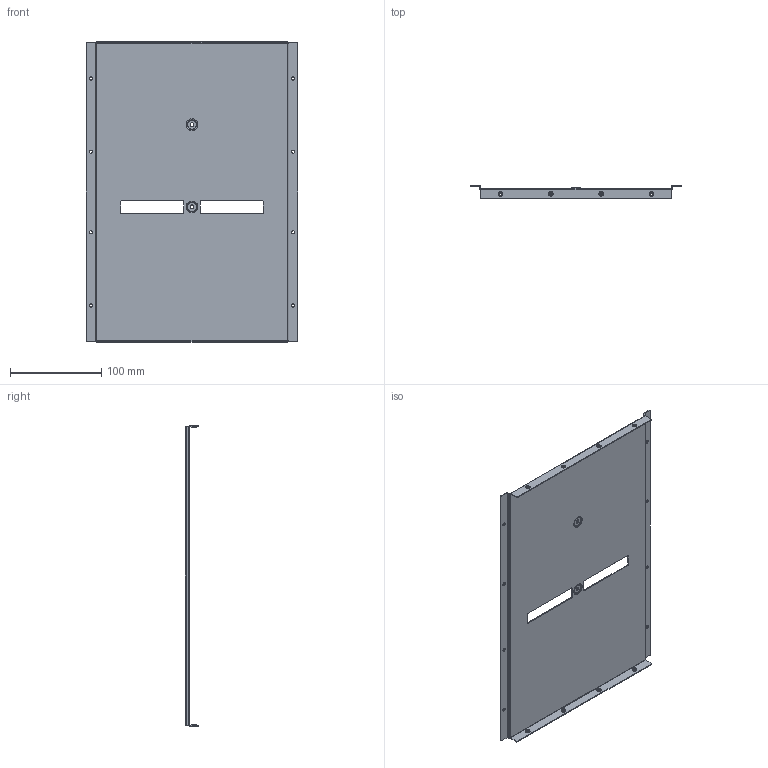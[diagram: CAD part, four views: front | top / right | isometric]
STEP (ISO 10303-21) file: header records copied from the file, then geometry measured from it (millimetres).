
FILE_DESCRIPTION((''),'2;1');
FILE_NAME('OCP3-CHAS_BASE-DSFF','2025-03-17T16:10:20',('T_Dawson'),('Dell Technologies'),'CREO PARAMETRIC BY PTC INC, 2023294','CREO PARAMETRIC BY PTC INC, 2023294','');
FILE_SCHEMA(('AUTOMOTIVE_DESIGN { 1 0 10303 214 1 1 1 1 }'));
Length unit declared in the file: millimetre
Products named in the file (1): OCP3-CHAS_BASE-DSFF
Bounding box: 231.2 x 14.62 x 328 mm (x, y, z)
Volume: 79921.9 mm3; surface area: 161537 mm2
Topology: 1 solids, 1 shells, 209 faces, 501 edges, 352 vertices
Faces by surface type: cylinder 79, plane 74, torus 48, cone 8
Entity records: 8979 total; most frequent: DIRECTION 1349, CARTESIAN_POINT 1127, ORIENTED_EDGE 962, AXIS2_PLACEMENT_3D 544, PRESENTATION_STYLE_ASSIGNMENT 507, STYLED_ITEM 507, CURVE_STYLE 506, EDGE_CURVE 481
